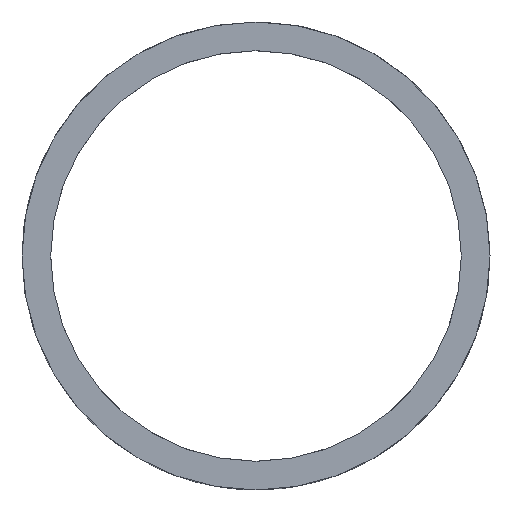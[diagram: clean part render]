
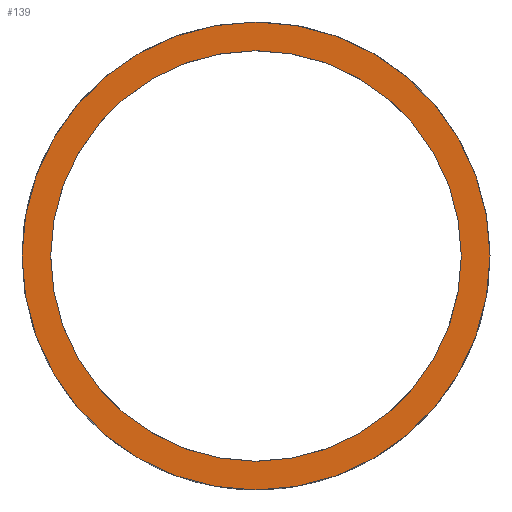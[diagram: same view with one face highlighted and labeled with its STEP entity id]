
A CAD part, left-side view. The second image highlights one B-rep face of the part: STEP entity #139.
In plain terms, the highlighted planar face has unit normal (-1, 0, 0).
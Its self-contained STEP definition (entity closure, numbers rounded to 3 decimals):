
#62=PLANE('',#131);
#68=ORIENTED_EDGE('',*,*,#80,.F.);
#69=ORIENTED_EDGE('',*,*,#82,.F.);
#74=CIRCLE('',#129,21.2);
#75=CIRCLE('',#132,18.6);
#76=VERTEX_POINT('',#117);
#78=VERTEX_POINT('',#122);
#80=EDGE_CURVE('',#76,#76,#74,.T.);
#82=EDGE_CURVE('',#78,#78,#75,.T.);
#86=EDGE_LOOP('',(#68));
#87=EDGE_LOOP('',(#69));
#94=FACE_BOUND('',#86,.T.);
#95=FACE_BOUND('',#87,.T.);
#102=DIRECTION('',(1.,0.,0.));
#103=DIRECTION('',(0.,21.2,0.));
#106=DIRECTION('',(-1.,0.,0.));
#107=DIRECTION('',(0.,1.,0.));
#108=DIRECTION('',(-1.,0.,0.));
#109=DIRECTION('',(0.,-18.6,0.));
#117=CARTESIAN_POINT('',(-2500.,21.2,0.));
#118=CARTESIAN_POINT('',(-2500.,0.,0.));
#121=CARTESIAN_POINT('',(-2500.,0.,0.));
#122=CARTESIAN_POINT('',(-2500.,-18.6,0.));
#123=CARTESIAN_POINT('',(-2500.,0.,0.));
#129=AXIS2_PLACEMENT_3D('',#118,#102,#103);
#131=AXIS2_PLACEMENT_3D('',#121,#106,#107);
#132=AXIS2_PLACEMENT_3D('',#123,#108,#109);
#139=ADVANCED_FACE('',(#94,#95),#62,.T.);
